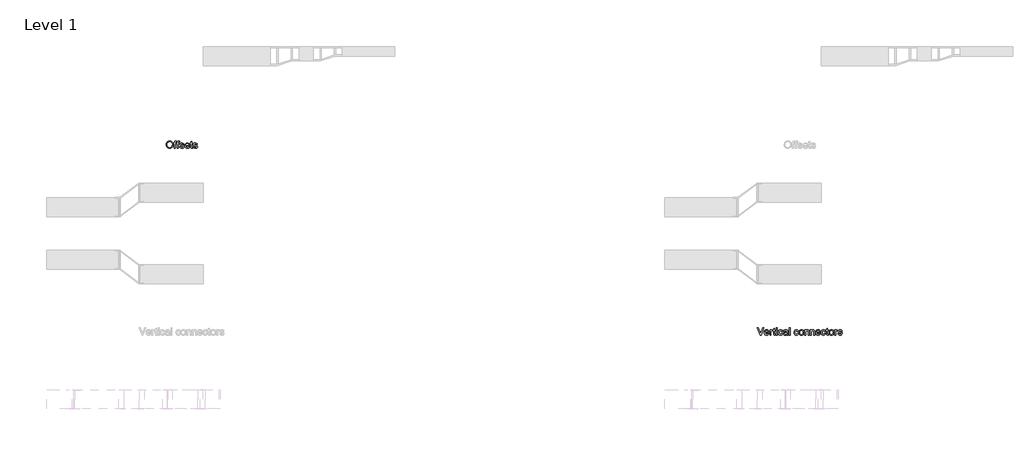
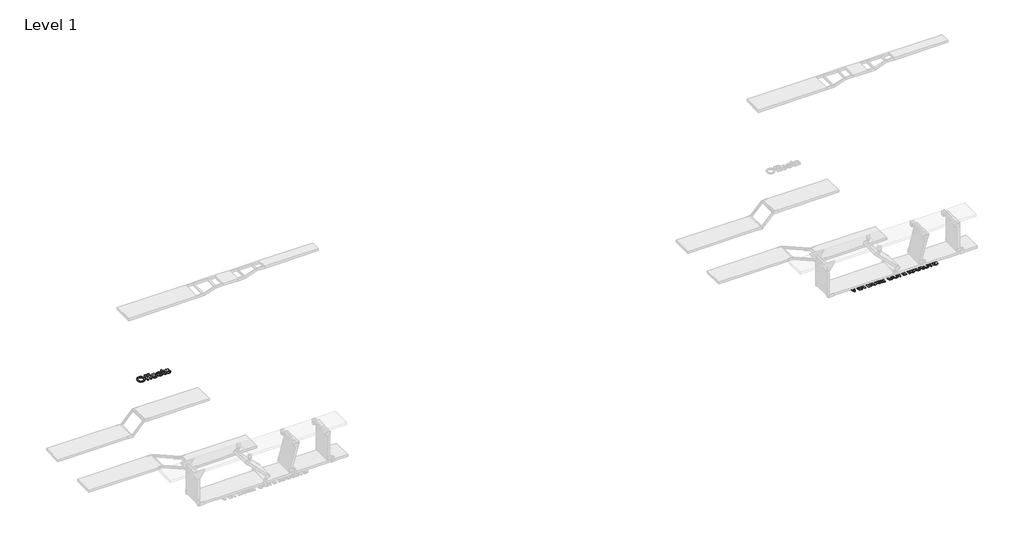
# One storey, part 41 of 106: 2 proxies.
"""IFC4 building model written with IfcOpenShell, lengths in millimetres."""

from ifc_helpers import new_model, si_unit, origin, origin_with_axes, place, context, project, spatial, polyline, outline, extrude, element, save

model = new_model("IFC4")

# Units and contexts
model_context = context("Model", 3, world=origin())
ifc_project = project(units=[si_unit("LENGTHUNIT", "METRE", prefix="MILLI")], contexts=[model_context])

# Site, building, storey
site = spatial("IfcSite", under=ifc_project)
building = spatial("IfcBuilding", under=site)
storey = spatial("IfcBuildingStorey", under=building, Name="Level 1", Elevation=0.0)

# Proxies
placement = place(None, origin())
element("IfcBuildingElementProxy", 1, Name="150mm Arial 2", ObjectType="150mm Arial 2", at=placement, inside=storey, context=model_context, shape_type="SweptSolid", body=[
    extrude(outline(polyline([(42592.661661, 17021.2033046), (42597.6832503, 17054.5242163), (42603.9602368, 17068.1427479), (42612.748018, 17079.7333301), (42635.7498397, 17095.5982411), (42664.5825911, 17100.8865448), (42684.3470513, 17098.4033413), (42702.0697664, 17090.9537309), (42716.7850462, 17079.0619454), (42727.5272005, 17063.2522167), (42734.0938941, 17044.2878998), (42736.282792, 17022.93235), (42733.978931, 17001.2916916), (42727.067348, 16982.0606603), (42715.9297206, 16966.2233404), (42700.9477263, 16954.7638163), (42683.3767625, 16947.8108466), (42664.4722265, 16945.49319), (42644.4042637, 16948.0545684), (42626.580381, 16955.7387036), (42611.9018894, 16967.8512183), (42601.2700997, 16983.6977352), (42594.8137707, 17001.9308866), (42592.661661, 17021.2033046)]), holes=[polyline([(42611.4972192, 17021.0193636), (42615.2634111, 16997.4473248), (42626.5619869, 16979.4854864), (42643.5443395, 16968.1179327), (42664.3618619, 16964.3287482), (42685.482887, 16968.1547209), (42702.4928307, 16979.6326392), (42713.708633, 16998.1463006), (42717.4472338, 17023.0795028), (42715.8469471, 17039.7537542), (42711.0460871, 17054.1655314), (42703.1688139, 17065.9515508), (42692.3392876, 17074.748529), (42679.2748783, 17080.2253722), (42664.6929557, 17082.0509866), (42644.4318548, 17078.533115), (42627.2057804, 17067.9795003), (42615.4243595, 17049.203723), (42611.4972192, 17021.0193636)])]), origin_with_axes(), (0.0, 0.0, 1.0), 15.0),
    extrude(outline(polyline([(42825.7516932, 16947.8476348), (42825.7516932, 17039.6709808), (42809.2705798, 17039.6709808), (42809.2705798, 17058.5065389), (42825.7516932, 17058.5065389), (42825.7516932, 17069.6533634), (42827.738256, 17085.3619246), (42837.3767642, 17096.5823254), (42856.3594752, 17100.8865448), (42873.5395644, 17098.8264056), (42870.7804494, 17081.1680698), (42859.9279305, 17082.0509866), (42848.0637362, 17078.9239897), (42844.5872513, 17067.2621304), (42844.5872513, 17058.5065389), (42865.7772543, 17058.5065389), (42865.7772543, 17039.6709808), (42844.5872513, 17039.6709808), (42844.5872513, 16947.8476348), (42825.7516932, 16947.8476348)])), origin_with_axes(), (0.0, 0.0, 1.0), 15.0),
    extrude(outline(polyline([(42764.5361292, 16947.8476348), (42764.5361292, 17039.6709808), (42748.0550158, 17039.6709808), (42748.0550158, 17058.5065389), (42764.5361292, 17058.5065389), (42764.5361292, 17069.6533634), (42766.522692, 17085.3619246), (42776.1612002, 17096.5823254), (42795.1439112, 17100.8865448), (42812.3240004, 17098.8264056), (42809.5648854, 17081.1680698), (42798.7123665, 17082.0509866), (42786.8481722, 17078.9239897), (42783.3716873, 17067.2621304), (42783.3716873, 17058.5065389), (42804.5616903, 17058.5065389), (42804.5616903, 17039.6709808), (42783.3716873, 17039.6709808), (42783.3716873, 16947.8476348), (42764.5361292, 16947.8476348)])), origin_with_axes(), (0.0, 0.0, 1.0), 15.0),
    extrude(outline(polyline([(42875.1950333, 16980.8098615), (42894.0305915, 16983.1643063), (42897.0012386, 16975.1076906), (42902.7493948, 16969.1847905), (42922.7253871, 16964.3287482), (42941.9288273, 16968.7801203), (42948.1828212, 16979.227969), (42946.6101257, 16984.028829), (42941.8920391, 16987.6892549), (42922.5046579, 16993.060332), (42894.1409561, 17002.275776), (42881.761727, 17013.0363243), (42877.5494781, 17028.2298507), (42880.9339925, 17042.2645488), (42890.1678305, 17052.988309), (42902.1423895, 17058.5617212), (42918.3475914, 17060.8609837), (42941.2666397, 17057.1637696), (42955.8347667, 17047.1573794), (42962.3094898, 17030.2532017), (42943.4739316, 17027.8987569), (42936.3922032, 17038.2914233), (42919.8191194, 17042.0254255), (42901.7929016, 17038.4569702), (42896.3850363, 17030.1428371), (42898.6291164, 17024.6613954), (42905.6556625, 17020.5043288), (42921.8792585, 17016.4944151), (42949.5255905, 17007.628459), (42962.3646721, 16997.5852805), (42967.0183793, 16981.2145317), (42961.5553317, 16963.188314), (42945.7915882, 16950.1101091), (42922.4678697, 16945.49319), (42903.4759617, 16947.7188761), (42889.6160076, 16954.3959343), (42880.3637754, 16965.4507882), (42875.1950333, 16980.8098615)])), origin_with_axes(), (0.0, 0.0, 1.0), 15.0),
    extrude(outline(polyline([(43065.6843304, 16980.8098615), (43084.1520066, 16978.4554168), (43077.497941, 16964.5402803), (43066.8799469, 16954.1384169), (43052.5371476, 16947.6544967), (43034.7086664, 16945.49319), (43012.6081556, 16949.2225937), (42995.6028104, 16960.4108049), (42984.7594886, 16978.3312566), (42981.145048, 17002.2573819), (42984.7962768, 17026.988249), (42995.7499632, 17045.4835163), (43012.5253821, 17057.0166168), (43033.6418087, 17060.8609837), (43054.1006461, 17057.0258139), (43070.4484023, 17045.5203045), (43081.1675639, 17027.0618254), (43084.7406178, 17002.3677465), (43084.6302532, 16997.2909749), (42999.9806061, 16997.2909749), (43003.2409603, 16983.1918975), (43010.8147309, 16972.8268223), (43021.7454246, 16966.4532667), (43035.0765484, 16964.3287482), (43053.5442246, 16968.2650855), (43065.6843304, 16980.8098615)]), holes=[polyline([(42999.9806061, 17016.1265331), (43065.9050596, 17016.1265331), (43063.3574768, 17026.0777411), (43058.3634787, 17033.1962577), (43047.3822012, 17039.8181336), (43033.5682323, 17042.0254255), (43020.8717049, 17040.2641905), (43010.3732725, 17034.9804853), (43003.0754134, 17026.7445272), (42999.9806061, 17016.1265331)])]), origin_with_axes(), (0.0, 0.0, 1.0), 15.0),
    extrude(outline(polyline([(43143.601737, 16963.556196), (43145.9561818, 16947.2958118), (43131.8663014, 16945.49319), (43116.0841638, 16948.620187), (43108.2114891, 16956.8239555), (43105.9306207, 16978.1978994), (43105.9306207, 17039.6709808), (43091.8039521, 17039.6709808), (43091.8039521, 17058.5065389), (43105.9306207, 17058.5065389), (43105.9306207, 17085.3987128), (43124.7661789, 17096.4719608), (43124.7661789, 17058.5065389), (43143.601737, 17058.5065389), (43143.601737, 17039.6709808), (43124.7661789, 17039.6709808), (43124.7661789, 16978.7497224), (43125.7594603, 16969.0376377), (43128.9784277, 16965.597941), (43135.3979685, 16964.3287482), (43143.601737, 16963.556196)])), origin_with_axes(), (0.0, 0.0, 1.0), 15.0),
    extrude(outline(polyline([(43155.3739609, 16980.8098615), (43174.209519, 16983.1643063), (43177.1801661, 16975.1076906), (43182.9283223, 16969.1847905), (43202.9043146, 16964.3287482), (43222.1077548, 16968.7801203), (43228.3617487, 16979.227969), (43226.7890532, 16984.028829), (43222.0709666, 16987.6892549), (43202.6835854, 16993.060332), (43174.3198836, 17002.275776), (43161.9406545, 17013.0363243), (43157.7284056, 17028.2298507), (43161.11292, 17042.2645488), (43170.3467581, 17052.988309), (43182.321317, 17058.5617212), (43198.5265189, 17060.8609837), (43221.4455672, 17057.1637696), (43236.0136942, 17047.1573794), (43242.4884173, 17030.2532017), (43223.6528592, 17027.8987569), (43216.5711308, 17038.2914233), (43199.9980469, 17042.0254255), (43181.9718291, 17038.4569702), (43176.5639638, 17030.1428371), (43178.808044, 17024.6613954), (43185.8345901, 17020.5043288), (43202.0581861, 17016.4944151), (43229.704518, 17007.628459), (43242.5435996, 16997.5852805), (43247.1973069, 16981.2145317), (43241.7342592, 16963.188314), (43225.9705157, 16950.1101091), (43202.6467972, 16945.49319), (43183.6548892, 16947.7188761), (43169.7949351, 16954.3959343), (43160.5427029, 16965.4507882), (43155.3739609, 16980.8098615)])), origin_with_axes(), (0.0, 0.0, 1.0), 15.0),
])
element("IfcBuildingElementProxy", 2, Name="150mm Arial 2", ObjectType="150mm Arial 2", at=placement, inside=storey, context=model_context, shape_type="SweptSolid", body=[
    extrude(outline(polyline([(54988.5897513, 13047.8476348), (54928.624986, 13198.5321), (54948.7849194, 13198.5321), (54988.920845, 13089.9701232), (54997.0510371, 13065.5059705), (55005.0708646, 13089.9701232), (55045.3171549, 13198.5321), (55065.4770882, 13198.5321), (55008.0507088, 13047.8476348), (54988.5897513, 13047.8476348)])), origin_with_axes(), (0.0, 0.0, 1.0), 15.0),
    extrude(outline(polyline([(55158.1097746, 13080.8098615), (55176.5774508, 13078.4554168), (55169.9233852, 13064.5402803), (55159.3053911, 13054.1384169), (55144.9625918, 13047.6544967), (55127.1341106, 13045.49319), (55105.0335998, 13049.2225937), (55088.0282546, 13060.4108049), (55077.1849327, 13078.3312566), (55073.5704921, 13102.2573819), (55077.2217209, 13126.988249), (55088.1754073, 13145.4835163), (55104.9508263, 13157.0166168), (55126.0672529, 13160.8609837), (55146.5260903, 13157.0258139), (55162.8738465, 13145.5203045), (55173.5930081, 13127.0618254), (55177.166062, 13102.3677465), (55177.0556974, 13097.2909749), (55092.4060503, 13097.2909749), (55095.6664045, 13083.1918975), (55103.2401751, 13072.8268223), (55114.1708688, 13066.4532667), (55127.5019926, 13064.3287482), (55145.9696688, 13068.2650855), (55158.1097746, 13080.8098615)]), holes=[polyline([(55092.4060503, 13116.1265331), (55158.3305038, 13116.1265331), (55155.782921, 13126.0777411), (55150.7889229, 13133.1962577), (55139.8076454, 13139.8181336), (55125.9936765, 13142.0254255), (55113.2971491, 13140.2641905), (55102.7987167, 13134.9804853), (55095.5008576, 13126.7445272), (55092.4060503, 13116.1265331)])]), origin_with_axes(), (0.0, 0.0, 1.0), 15.0),
    extrude(outline(polyline([(55306.6605243, 13063.556196), (55309.0149691, 13047.2958118), (55294.9250886, 13045.49319), (55279.142951, 13048.620187), (55271.2702763, 13056.8239555), (55268.989408, 13078.1978994), (55268.989408, 13139.6709808), (55254.8627394, 13139.6709808), (55254.8627394, 13155.0484482), (55254.8627394, 13158.5065389), (55268.989408, 13158.5065389), (55268.989408, 13185.3987128), (55287.8249661, 13196.4719608), (55287.8249661, 13158.5065389), (55306.6605243, 13158.5065389), (55306.6605243, 13139.6709808), (55287.8249661, 13139.6709808), (55287.8249661, 13078.7497224), (55288.8182475, 13069.0376377), (55292.037215, 13065.597941), (55298.4567558, 13064.3287482), (55306.6605243, 13063.556196)])), origin_with_axes(), (0.0, 0.0, 1.0), 15.0),
    extrude(outline(polyline([(55196.0016201, 13047.8476348), (55196.0016201, 13158.5065389), (55212.4827335, 13158.5065389), (55212.4827335, 13142.1357901), (55224.181381, 13157.2189519), (55235.9536048, 13160.8609837), (55254.8627394, 13155.0484482), (55248.5719572, 13138.1626646), (55235.3282054, 13142.0254255), (55224.6780217, 13138.3098174), (55217.8905988, 13128.0091215), (55214.8371783, 13106.0097782), (55214.8371783, 13047.8476348), (55196.0016201, 13047.8476348)])), origin_with_axes(), (0.0, 0.0, 1.0), 15.0),
    extrude(outline(polyline([(55325.4960824, 13179.6965419), (55325.4960824, 13198.5321), (55344.3316406, 13198.5321), (55344.3316406, 13179.6965419), (55325.4960824, 13179.6965419)])), origin_with_axes(), (0.0, 0.0, 1.0), 15.0),
    extrude(outline(polyline([(55325.4960824, 13047.8476348), (55325.4960824, 13158.5065389), (55344.3316406, 13158.5065389), (55344.3316406, 13047.8476348), (55325.4960824, 13047.8476348)])), origin_with_axes(), (0.0, 0.0, 1.0), 15.0),
    extrude(outline(polyline([(55443.2183209, 13087.8731959), (55462.053879, 13085.5187511), (55456.8023636, 13068.7663247), (55446.933929, 13056.1065856), (55433.3774775, 13048.1465389), (55417.061911, 13045.49319), (55397.0261379, 13049.1950026), (55381.3589634, 13060.3004403), (55371.2468071, 13078.3220596), (55367.8760883, 13102.7724167), (55369.3154266, 13119.5340401), (55373.6334415, 13134.0607803), (55380.8991109, 13145.7916175), (55391.1814127, 13154.1655314), (55403.4824669, 13159.1871206), (55416.8043936, 13160.8609837), (55432.7198885, 13158.5617212), (55445.444007, 13151.6639338), (55454.572079, 13140.5355035), (55459.6994343, 13125.5443122), (55440.8638761, 13123.1898674), (55432.1266787, 13137.2981419), (55416.9515464, 13142.0254255), (55404.7792509, 13139.6985719), (55395.11775, 13132.7180111), (55388.8131723, 13120.7066639), (55386.7116464, 13103.2874515), (55388.7671871, 13085.6337142), (55394.933809, 13073.5809803), (55404.420566, 13066.6418062), (55416.4365116, 13064.3287482), (55426.189983, 13065.772685), (55434.1868179, 13070.1044955), (55440.003952, 13077.4345442), (55443.2183209, 13087.8731959)])), origin_with_axes(), (0.0, 0.0, 1.0), 15.0),
    extrude(outline(polyline([(55549.1683355, 13061.9743034), (55530.9029944, 13049.2087982), (55510.724667, 13045.49319), (55494.9839161, 13047.7280731), (55483.3726407, 13054.4327225), (55476.2127373, 13064.6138567), (55473.8261029, 13077.2781944), (55477.4313464, 13092.1774152), (55486.9043078, 13102.9931459), (55500.0928773, 13109.1735634), (55516.3900497, 13112.0062547), (55549.0579709, 13118.4809779), (55549.1683355, 13122.6748326), (55547.8715515, 13131.0809362), (55543.9811994, 13136.580772), (55535.2807902, 13140.6642622), (55523.1590784, 13142.0254255), (55504.1027911, 13138.4017879), (55495.0161058, 13125.5443122), (55476.1805477, 13127.8987569), (55484.3291339, 13146.2928567), (55500.7366708, 13157.0717991), (55525.5870996, 13160.8609837), (55548.4141774, 13157.5132575), (55561.3084413, 13149.107154), (55567.0841887, 13136.3232546), (55568.0038937, 13119.8421412), (55568.0038937, 13096.4080581), (55568.9603868, 13063.6849547), (55572.7127832, 13047.8476348), (55553.877225, 13047.8476348), (55549.1683355, 13061.9743034)]), holes=[polyline([(55549.1683355, 13099.6454197), (55518.7812827, 13093.8696724), (55502.5760808, 13090.8162518), (55495.236835, 13085.8498449), (55492.661661, 13078.6025696), (55498.2718615, 13068.4122383), (55514.7345808, 13064.3287482), (55533.7908681, 13068.8353026), (55546.0781267, 13079.7430038), (55549.0579709, 13094.3111308), (55549.1683355, 13099.6454197)])]), origin_with_axes(), (0.0, 0.0, 1.0), 15.0),
    extrude(outline(polyline([(55593.9027861, 13047.8476348), (55593.9027861, 13198.5321), (55612.7383443, 13198.5321), (55612.7383443, 13047.8476348), (55593.9027861, 13047.8476348)])), origin_with_axes(), (0.0, 0.0, 1.0), 15.0),
    extrude(outline(polyline([(55770.4861438, 13087.8731959), (55789.321702, 13085.5187511), (55784.0701865, 13068.7663247), (55774.201752, 13056.1065856), (55760.6453004, 13048.1465389), (55744.3297339, 13045.49319), (55724.2939608, 13049.1950026), (55708.6267863, 13060.3004403), (55698.51463, 13078.3220596), (55695.1439112, 13102.7724167), (55696.5832495, 13119.5340401), (55700.9012644, 13134.0607803), (55708.1669338, 13145.7916175), (55718.4492356, 13154.1655314), (55730.7502898, 13159.1871206), (55744.0722165, 13160.8609837), (55759.9877114, 13158.5617212), (55772.7118299, 13151.6639338), (55781.8399019, 13140.5355035), (55786.9672572, 13125.5443122), (55768.131699, 13123.1898674), (55759.3945016, 13137.2981419), (55744.2193693, 13142.0254255), (55732.0470738, 13139.6985719), (55722.3855729, 13132.7180111), (55716.0809952, 13120.7066639), (55713.9794693, 13103.2874515), (55716.03501, 13085.6337142), (55722.2016319, 13073.5809803), (55731.6883889, 13066.6418062), (55743.7043346, 13064.3287482), (55753.457806, 13065.772685), (55761.4546408, 13070.1044955), (55767.2717749, 13077.4345442), (55770.4861438, 13087.8731959)])), origin_with_axes(), (0.0, 0.0, 1.0), 15.0),
    extrude(outline(polyline([(55801.0939258, 13103.1770869), (55805.1682189, 13129.8577286), (55817.3910982, 13148.6105133), (55832.4926541, 13157.7983661), (55850.5740542, 13160.8609837), (55870.361507, 13157.13158), (55886.1666372, 13145.9433688), (55896.5271139, 13128.179267), (55899.9806061, 13104.7221912), (55898.4538958, 13085.693495), (55893.873765, 13071.2081415), (55886.3735708, 13060.3602211), (55876.0866705, 13052.2438246), (55863.8683898, 13047.1808487), (55850.5740542, 13045.49319), (55830.547478, 13049.2087982), (55814.7607419, 13060.3556226), (55804.5106298, 13078.492205), (55801.0939258, 13103.1770869)]), holes=[polyline([(55819.929484, 13103.2138751), (55822.1091848, 13086.1671431), (55828.6482872, 13074.0224387), (55838.4891306, 13066.7521708), (55850.5740542, 13064.3287482), (55862.6037954, 13066.7659664), (55872.4262447, 13074.077621), (55878.9653471, 13086.3832738), (55881.145048, 13103.8024862), (55878.9515516, 13120.3525775), (55872.3710624, 13132.331735), (55862.5348175, 13139.6020029), (55850.5740542, 13142.0254255), (55838.4891306, 13139.6112), (55828.6482872, 13132.3685232), (55822.1091848, 13120.25141), (55819.929484, 13103.2138751)])]), origin_with_axes(), (0.0, 0.0, 1.0), 15.0),
    extrude(outline(polyline([(55921.170609, 13047.8476348), (55921.170609, 13158.5065389), (55940.0061672, 13158.5065389), (55940.0061672, 13143.0554951), (55954.4087473, 13156.4096116), (55974.0720399, 13160.8609837), (55991.8591344, 13157.2741342), (56003.9992402, 13147.8563552), (56009.6462289, 13134.0055981), (56010.6395103, 13115.7954393), (56010.6395103, 13047.8476348), (55991.8039521, 13047.8476348), (55991.8039521, 13113.2570535), (55989.6334483, 13129.9221079), (55981.9631087, 13138.7328817), (55969.0320566, 13142.0254255), (55958.0001953, 13140.1768185), (55948.5962118, 13134.6309974), (55942.1536783, 13123.9164343), (55940.0061672, 13106.5616012), (55940.0061672, 13047.8476348), (55921.170609, 13047.8476348)])), origin_with_axes(), (0.0, 0.0, 1.0), 15.0),
    extrude(outline(polyline([(56036.5384027, 13047.8476348), (56036.5384027, 13158.5065389), (56055.3739609, 13158.5065389), (56055.3739609, 13143.0554951), (56069.776541, 13156.4096116), (56089.4398336, 13160.8609837), (56107.2269281, 13157.2741342), (56119.3670339, 13147.8563552), (56125.0140226, 13134.0055981), (56126.0073039, 13115.7954393), (56126.0073039, 13047.8476348), (56107.1717458, 13047.8476348), (56107.1717458, 13113.2570535), (56105.001242, 13129.9221079), (56097.3309024, 13138.7328817), (56084.3998503, 13142.0254255), (56073.367989, 13140.1768185), (56063.9640055, 13134.6309974), (56057.521472, 13123.9164343), (56055.3739609, 13106.5616012), (56055.3739609, 13047.8476348), (56036.5384027, 13047.8476348)])), origin_with_axes(), (0.0, 0.0, 1.0), 15.0),
    extrude(outline(polyline([(56229.3821446, 13080.8098615), (56247.8498207, 13078.4554168), (56241.1957552, 13064.5402803), (56230.5777611, 13054.1384169), (56216.2349618, 13047.6544967), (56198.4064806, 13045.49319), (56176.3059697, 13049.2225937), (56159.3006245, 13060.4108049), (56148.4573027, 13078.3312566), (56144.8428621, 13102.2573819), (56148.4940909, 13126.988249), (56159.4477773, 13145.4835163), (56176.2231963, 13157.0166168), (56197.3396228, 13160.8609837), (56217.7984603, 13157.0258139), (56234.1462164, 13145.5203045), (56244.8653781, 13127.0618254), (56248.4384319, 13102.3677465), (56248.3280673, 13097.2909749), (56163.6784202, 13097.2909749), (56166.9387744, 13083.1918975), (56174.512545, 13072.8268223), (56185.4432388, 13066.4532667), (56198.7743626, 13064.3287482), (56217.2420387, 13068.2650855), (56229.3821446, 13080.8098615)]), holes=[polyline([(56163.6784202, 13116.1265331), (56229.6028738, 13116.1265331), (56227.055291, 13126.0777411), (56222.0612929, 13133.1962577), (56211.0800153, 13139.8181336), (56197.2660464, 13142.0254255), (56184.569519, 13140.2641905), (56174.0710866, 13134.9804853), (56166.7732275, 13126.7445272), (56163.6784202, 13116.1265331)])]), origin_with_axes(), (0.0, 0.0, 1.0), 15.0),
    extrude(outline(polyline([(56337.9073332, 13087.8731959), (56356.7428913, 13085.5187511), (56351.4913758, 13068.7663247), (56341.6229413, 13056.1065856), (56328.0664898, 13048.1465389), (56311.7509233, 13045.49319), (56291.7151501, 13049.1950026), (56276.0479757, 13060.3004403), (56265.9358193, 13078.3220596), (56262.5651006, 13102.7724167), (56264.0044389, 13119.5340401), (56268.3224538, 13134.0607803), (56275.5881232, 13145.7916175), (56285.8704249, 13154.1655314), (56298.1714792, 13159.1871206), (56311.4934059, 13160.8609837), (56327.4089007, 13158.5617212), (56340.1330192, 13151.6639338), (56349.2610912, 13140.5355035), (56354.3884465, 13125.5443122), (56335.5528884, 13123.1898674), (56326.815691, 13137.2981419), (56311.6405587, 13142.0254255), (56299.4682632, 13139.6985719), (56289.8067623, 13132.7180111), (56283.5021846, 13120.7066639), (56281.4006587, 13103.2874515), (56283.4561994, 13085.6337142), (56289.6228213, 13073.5809803), (56299.1095782, 13066.6418062), (56311.1255239, 13064.3287482), (56320.8789953, 13065.772685), (56328.8758302, 13070.1044955), (56334.6929642, 13077.4345442), (56337.9073332, 13087.8731959)])), origin_with_axes(), (0.0, 0.0, 1.0), 15.0),
    extrude(outline(polyline([(56413.2495658, 13063.556196), (56415.6040105, 13047.2958118), (56401.5141301, 13045.49319), (56385.7319925, 13048.620187), (56377.8593178, 13056.8239555), (56375.5784495, 13078.1978994), (56375.5784495, 13139.6709808), (56361.4517809, 13139.6709808), (56361.4517809, 13158.5065389), (56375.5784495, 13158.5065389), (56375.5784495, 13185.3987128), (56394.4140076, 13196.4719608), (56394.4140076, 13158.5065389), (56413.2495658, 13158.5065389), (56413.2495658, 13139.6709808), (56394.4140076, 13139.6709808), (56394.4140076, 13078.7497224), (56395.407289, 13069.0376377), (56398.6262565, 13065.597941), (56405.0457973, 13064.3287482), (56413.2495658, 13063.556196)])), origin_with_axes(), (0.0, 0.0, 1.0), 15.0),
    extrude(outline(polyline([(56427.3762344, 13103.1770869), (56431.4505275, 13129.8577286), (56443.6734068, 13148.6105133), (56458.7749627, 13157.7983661), (56476.8563627, 13160.8609837), (56496.6438156, 13157.13158), (56512.4489458, 13145.9433688), (56522.8094225, 13128.179267), (56526.2629147, 13104.7221912), (56524.7362044, 13085.693495), (56520.1560736, 13071.2081415), (56512.6558794, 13060.3602211), (56502.3689791, 13052.2438246), (56490.1506983, 13047.1808487), (56476.8563627, 13045.49319), (56456.8297866, 13049.2087982), (56441.0430505, 13060.3556226), (56430.7929384, 13078.492205), (56427.3762344, 13103.1770869)]), holes=[polyline([(56446.2117925, 13103.2138751), (56448.3914934, 13086.1671431), (56454.9305958, 13074.0224387), (56464.7714392, 13066.7521708), (56476.8563627, 13064.3287482), (56488.886104, 13066.7659664), (56498.7085533, 13074.077621), (56505.2476557, 13086.3832738), (56507.4273565, 13103.8024862), (56505.2338601, 13120.3525775), (56498.653371, 13132.331735), (56488.8171261, 13139.6020029), (56476.8563627, 13142.0254255), (56464.7714392, 13139.6112), (56454.9305958, 13132.3685232), (56448.3914934, 13120.25141), (56446.2117925, 13103.2138751)])]), origin_with_axes(), (0.0, 0.0, 1.0), 15.0),
    extrude(outline(polyline([(56547.4529176, 13047.8476348), (56547.4529176, 13158.5065389), (56563.934031, 13158.5065389), (56563.934031, 13142.1357901), (56575.6326784, 13157.2189519), (56587.4049023, 13160.8609837), (56606.3140368, 13155.0484482), (56600.0232547, 13138.1626646), (56586.7795029, 13142.0254255), (56576.1293191, 13138.3098174), (56569.3418963, 13128.0091215), (56566.2884758, 13106.0097782), (56566.2884758, 13047.8476348), (56547.4529176, 13047.8476348)])), origin_with_axes(), (0.0, 0.0, 1.0), 15.0),
    extrude(outline(polyline([(56611.0229264, 13080.8098615), (56629.8584845, 13083.1643063), (56632.8291316, 13075.1076906), (56638.5772878, 13069.1847905), (56658.5532802, 13064.3287482), (56677.7567203, 13068.7801203), (56684.0107142, 13079.227969), (56682.4380187, 13084.028829), (56677.7199321, 13087.6892549), (56658.332551, 13093.060332), (56629.9688491, 13102.275776), (56617.58962, 13113.0363243), (56613.3773712, 13128.2298507), (56616.7618855, 13142.2645488), (56625.9957236, 13152.988309), (56637.9702825, 13158.5617212), (56654.1754844, 13160.8609837), (56677.0945327, 13157.1637696), (56691.6626597, 13147.1573794), (56698.1373828, 13130.2532017), (56679.3018247, 13127.8987569), (56672.2200963, 13138.2914233), (56655.6470124, 13142.0254255), (56637.6207946, 13138.4569702), (56632.2129293, 13130.1428371), (56634.4570095, 13124.6613954), (56641.4835556, 13120.5043288), (56657.7071516, 13116.4944151), (56685.3534835, 13107.628459), (56698.1925651, 13097.5852805), (56702.8462724, 13081.2145317), (56697.3832248, 13063.188314), (56681.6194813, 13050.1101091), (56658.2957628, 13045.49319), (56639.3038548, 13047.7188761), (56625.4439006, 13054.3959343), (56616.1916684, 13065.4507882), (56611.0229264, 13080.8098615)])), origin_with_axes(), (0.0, 0.0, 1.0), 15.0),
])

save(model, "model.ifc")
